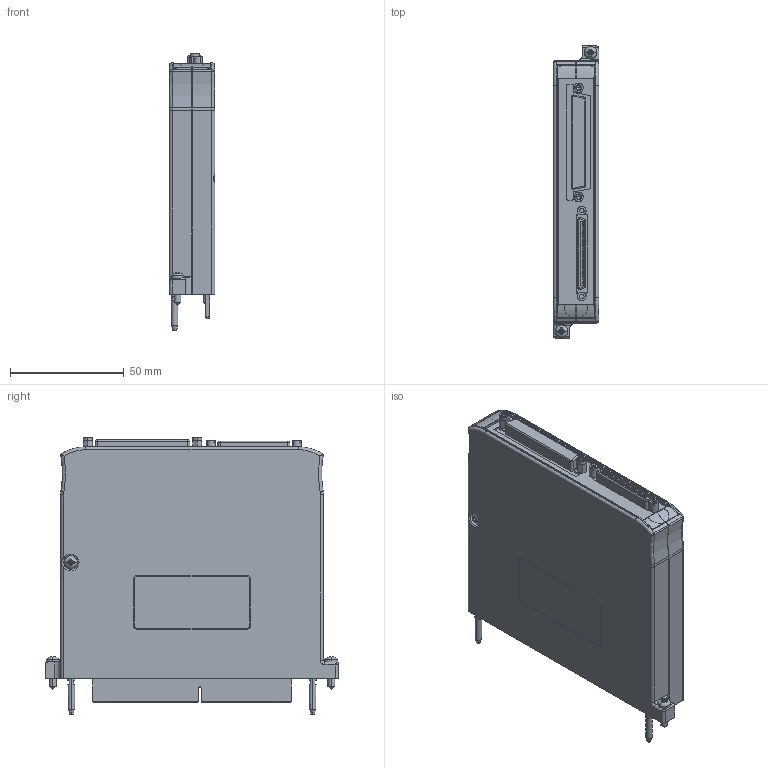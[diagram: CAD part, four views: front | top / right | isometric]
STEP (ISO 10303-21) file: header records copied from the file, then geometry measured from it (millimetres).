
FILE_DESCRIPTION((''),'2;1');
FILE_NAME('CU_NI-6583','2010-01-19T',('jjorden'),(''),'PRO/ENGINEER BY PARAMETRIC TECHNOLOGY CORPORATION, 2006080','PRO/ENGINEER BY PARAMETRIC TECHNOLOGY CORPORATION, 2006080','');
FILE_SCHEMA(('CONFIG_CONTROL_DESIGN'));
Products named in the file (1): CU_NI-6583
Bounding box: 20.02 x 128.65 x 121.92 mm (x, y, z)
Volume: 61103.3 mm3; surface area: 104467.8 mm2
Topology: 2 solids, 3 shells, 3289 faces, 8725 edges, 5610 vertices
Faces by surface type: plane 2448, cylinder 517, cone 132, bspline 114, sphere 40, torus 38
Entity records: 109807 total; most frequent: CARTESIAN_POINT 27876, ORIENTED_EDGE 17402, DIRECTION 16053, EDGE_CURVE 8701, VECTOR 6783, LINE 6783, VERTEX_POINT 5686, AXIS2_PLACEMENT_3D 4635
